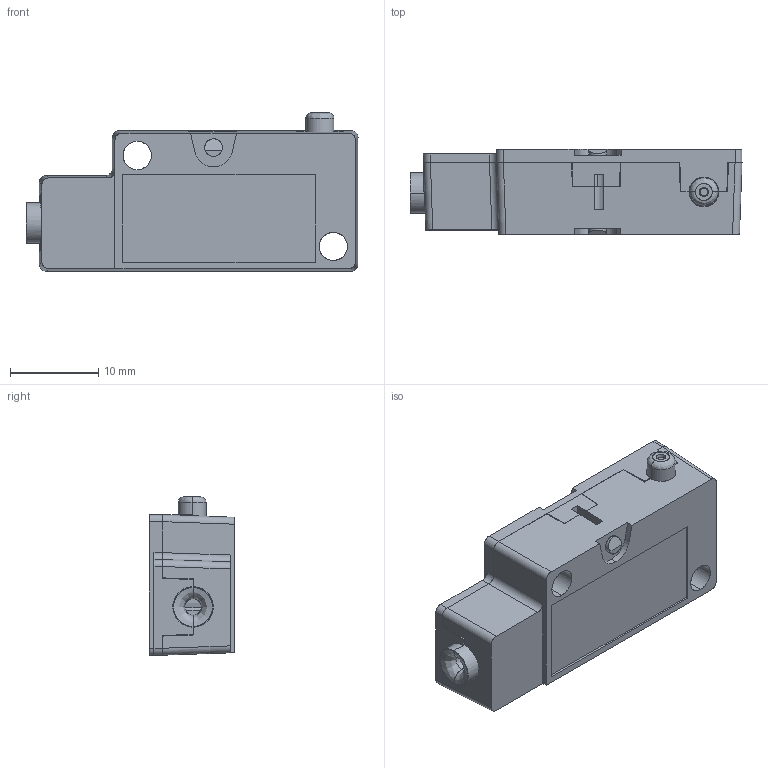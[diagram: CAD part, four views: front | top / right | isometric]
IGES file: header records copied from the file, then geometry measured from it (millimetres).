
Start section: SolidWorks IGES file using analytic representation for surfaces
Global section: file name: N:\_MR380_Signaling\_Micro-Switch\Mechanical\Molded_Version\Micronor_MR-0386_REVX3_SWModels\MR386_NoCable.IGS; native system: SolidWorks 2016; preprocessor: SolidWorks 2016; author: alan; date: 160428.113921; units: inch
Bounding box: 37.59 x 9.63 x 17.93 mm (x, y, z)
Surface area: 4525 mm2 (no closed solid volume)
Topology: 0 solids, 0 shells, 579 faces, 6631 edges, 6631 vertices
Faces by surface type: bspline 472, revolution 107
